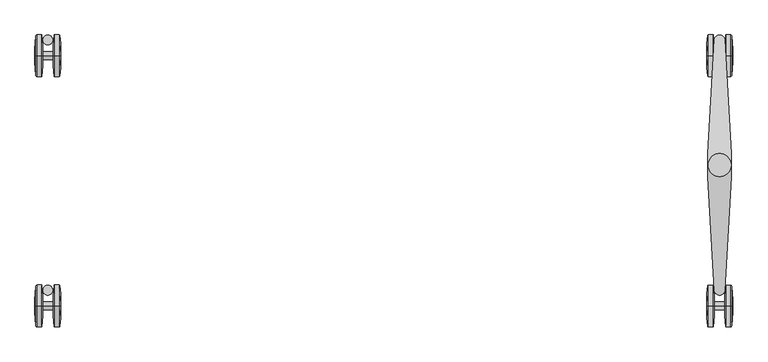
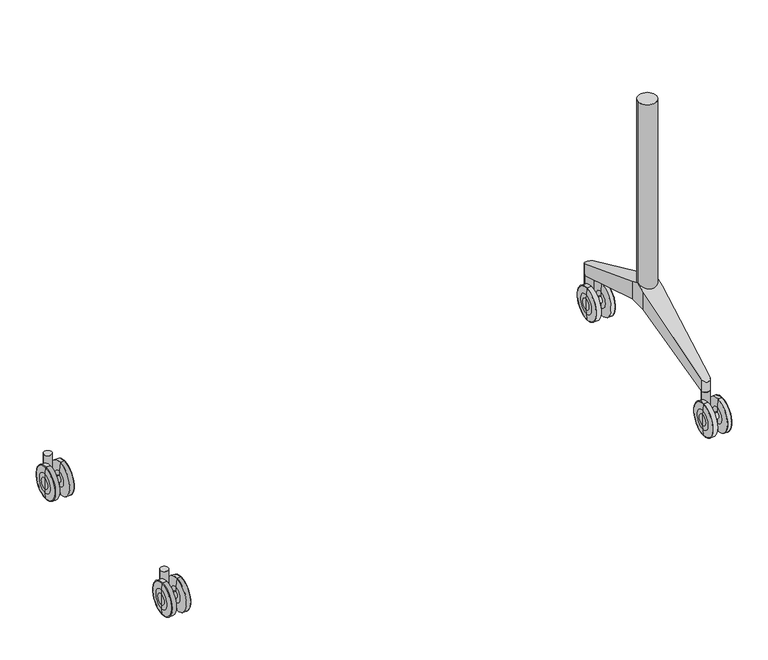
"""IFC4 building model written with IfcOpenShell, lengths in millimetres: furniture geometry."""

from ifc_helpers import new_model, si_unit, point, frame, frame_2d, origin, place, context, project, spatial, polyline, circle_curve, ellipse_curve, trimmed, segment, composite_curve, outline, extrude, source, transform, mapped, element, save
from ifc_brep_helpers import plane_surface, cylinder_surface, revolved_surface, advanced_brep


def furniture_fc034d58(model_context):
    return source(origin(), model_context, "Body", "SolidModel", [
        advanced_brep(
        [(618.3656519, 335.7555331, 26.9613134), (618.3656519, 335.7555331, 40.0000164), (618.3656519, 335.7555331, 53.0387194), (620.497176, 335.7555331, 0.8972162), (618.9247587, 335.7555331, 16.1123581), (618.9247587, 335.7555331, 63.8876748), (620.497176, 335.7555331, 79.1028166), (631.4565603, 335.7555331, 1.43e-05), (621.4918783, 335.7555331, 1.43e-05), (621.4918783, 335.7555331, 80.0000185), (631.4565603, 335.7555331, 80.0000185), (633.3656811, 335.7555331, 20.9999281), (633.3656811, 335.7555331, 59.0001048), (633.3656811, 335.7555331, 32.3463502), (633.3656811, 335.7555331, 47.6536826), (653.2657019, 335.7555331, 32.3463502), (653.2657019, 335.7555331, 47.6536826), (653.2657019, 335.7555331, 20.9999281), (653.2657019, 335.7555331, 59.0001048), (655.1748226, 335.7555331, 1.43e-05), (655.1748226, 335.7555331, 80.0000185), (664.2375243, 335.7555331, 1.43e-05), (664.2375243, 335.7555331, 80.0000185), (667.706818, 335.7555331, 16.1142331), (666.2269288, 335.7555331, 1.7944182), (666.2269288, 335.7555331, 78.2056147), (667.706818, 335.7555331, 63.8857997), (668.265731, 335.7555331, 40.0000164), (668.265731, 335.7555331, 26.9594284), (668.265731, 335.7555331, 53.0406045)],
        [
            (0, 1),
            (1, 2),
            (2, 0, circle_curve(frame((618.3656519, 335.7555331, 40.0000164), z_axis=(-1.0, 0.0, 0.0), x_axis=(0.0, 0.0, 1.0)), 13.038703)),
            (0, 2, circle_curve(frame((618.3656519, 335.7555331, 40.0000164), z_axis=(-1.0, 0.0, 0.0), x_axis=(0.0, 0.0, 1.0)), 13.038703)),
            (3, 4),
            (4, 5, circle_curve(frame((618.9247587, 335.7555331, 40.0000164), z_axis=(1.0, 0.0, 0.0), x_axis=(0.0, 0.0, 1.0)), 23.8876584)),
            (5, 6),
            (6, 3, circle_curve(frame((620.497176, 335.7555331, 40.0000164), z_axis=(-1.0, 0.0, 0.0), x_axis=(0.0, 0.0, 1.0)), 39.1028002)),
            (5, 4, circle_curve(frame((618.9247587, 335.7555331, 40.0000164), z_axis=(1.0, 0.0, 0.0), x_axis=(0.0, 0.0, 1.0)), 23.8876584)),
            (3, 6, circle_curve(frame((620.497176, 335.7555331, 40.0000164), z_axis=(-1.0, 0.0, 0.0), x_axis=(0.0, 0.0, 1.0)), 39.1028002)),
            (7, 8),
            (8, 9, circle_curve(frame((621.4918783, 335.7555331, 40.0000164), z_axis=(1.0, 0.0, 0.0), x_axis=(0.0, 0.0, 1.0)), 40.0000021)),
            (9, 10),
            (10, 7, circle_curve(frame((631.4565603, 335.7555331, 40.0000164), z_axis=(-1.0, 0.0, 0.0), x_axis=(0.0, 0.0, 1.0)), 40.0000021)),
            (9, 8, circle_curve(frame((621.4918783, 335.7555331, 40.0000164), z_axis=(1.0, 0.0, 0.0), x_axis=(0.0, 0.0, 1.0)), 40.0000021)),
            (7, 10, circle_curve(frame((631.4565603, 335.7555331, 40.0000164), z_axis=(-1.0, 0.0, 0.0), x_axis=(0.0, 0.0, 1.0)), 40.0000021)),
            (11, 7),
            (10, 12),
            (12, 11, circle_curve(frame((633.3656811, 335.7555331, 40.0000164), z_axis=(-1.0, 0.0, 0.0), x_axis=(0.0, 0.0, 1.0)), 19.0000883)),
            (11, 12, circle_curve(frame((633.3656811, 335.7555331, 40.0000164), z_axis=(-1.0, 0.0, 0.0), x_axis=(0.0, 0.0, 1.0)), 19.0000883)),
            (13, 11),
            (12, 14),
            (14, 13, circle_curve(frame((633.3656811, 335.7555331, 40.0000164), z_axis=(-1.0, 0.0, 0.0), x_axis=(0.0, 0.0, 1.0)), 7.6536662)),
            (13, 14, circle_curve(frame((633.3656811, 335.7555331, 40.0000164), z_axis=(-1.0, 0.0, 0.0), x_axis=(0.0, 0.0, 1.0)), 7.6536662)),
            (15, 13),
            (14, 16),
            (16, 15, circle_curve(frame((653.2657019, 335.7555331, 40.0000164), z_axis=(-1.0, 0.0, 0.0), x_axis=(0.0, 0.0, 1.0)), 7.6536662)),
            (15, 16, circle_curve(frame((653.2657019, 335.7555331, 40.0000164), z_axis=(-1.0, 0.0, 0.0), x_axis=(0.0, 0.0, 1.0)), 7.6536662)),
            (17, 15),
            (16, 18),
            (18, 17, circle_curve(frame((653.2657019, 335.7555331, 40.0000164), z_axis=(-1.0, 0.0, 0.0), x_axis=(0.0, 0.0, 1.0)), 19.0000883)),
            (17, 18, circle_curve(frame((653.2657019, 335.7555331, 40.0000164), z_axis=(-1.0, 0.0, 0.0), x_axis=(0.0, 0.0, 1.0)), 19.0000883)),
            (19, 17),
            (18, 20),
            (20, 19, circle_curve(frame((655.1748226, 335.7555331, 40.0000164), z_axis=(-1.0, 0.0, 0.0), x_axis=(0.0, 0.0, 1.0)), 40.0000021)),
            (19, 20, circle_curve(frame((655.1748226, 335.7555331, 40.0000164), z_axis=(-1.0, 0.0, 0.0), x_axis=(0.0, 0.0, 1.0)), 40.0000021)),
            (21, 19),
            (20, 22),
            (22, 21, circle_curve(frame((664.2375243, 335.7555331, 40.0000164), z_axis=(-1.0, 0.0, 0.0), x_axis=(0.0, 0.0, 1.0)), 40.0000021)),
            (21, 22, circle_curve(frame((664.2375243, 335.7555331, 40.0000164), z_axis=(-1.0, 0.0, 0.0), x_axis=(0.0, 0.0, 1.0)), 40.0000021)),
            (23, 24),
            (24, 25, circle_curve(frame((666.2269288, 335.7555331, 40.0000164), z_axis=(1.0, 0.0, 0.0), x_axis=(0.0, 0.0, 1.0)), 38.2055982)),
            (25, 26),
            (26, 23, circle_curve(frame((667.706818, 335.7555331, 40.0000164), z_axis=(-1.0, 0.0, 0.0), x_axis=(0.0, 0.0, 1.0)), 23.8857833)),
            (25, 24, circle_curve(frame((666.2269288, 335.7555331, 40.0000164), z_axis=(1.0, 0.0, 0.0), x_axis=(0.0, 0.0, 1.0)), 38.2055982)),
            (23, 26, circle_curve(frame((667.706818, 335.7555331, 40.0000164), z_axis=(-1.0, 0.0, 0.0), x_axis=(0.0, 0.0, 1.0)), 23.8857833)),
            (27, 28),
            (28, 29, circle_curve(frame((668.265731, 335.7555331, 40.0000164), z_axis=(1.0, 0.0, 0.0), x_axis=(0.0, 0.0, 1.0)), 13.0405881)),
            (29, 27),
            (29, 28, circle_curve(frame((668.265731, 335.7555331, 40.0000164), z_axis=(1.0, 0.0, 0.0), x_axis=(0.0, 0.0, 1.0)), 13.0405881)),
            (4, 0, circle_curve(frame((723.9022296, 335.7555331, 26.9613134), z_axis=(0.0, 1.0000000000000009, 0.0), x_axis=(-1.0000000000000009, 0.0, 0.0)), 105.5365777)),
            (2, 5, circle_curve(frame((723.9022296, 335.7555331, 53.0387194), z_axis=(0.0, 1.0000000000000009, 0.0), x_axis=(-1.0000000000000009, 0.0, 0.0)), 105.5365777)),
            (8, 3, circle_curve(frame((621.4918783, 335.7555331, 1.0000143), z_axis=(0.0, 1.0000000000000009, 0.0), x_axis=(-1.0000000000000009, 0.0, 0.0)), 1.0)),
            (6, 9, circle_curve(frame((621.4918783, 335.7555331, 79.0000185), z_axis=(0.0, 1.0000000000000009, 0.0), x_axis=(-1.0000000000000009, 0.0, 0.0)), 1.0)),
            (24, 21, circle_curve(frame((664.2375243, 335.7555331, 2.0000143), z_axis=(0.0, 1.0000000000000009, 0.0), x_axis=(-1.0000000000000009, 0.0, 0.0)), 2.0)),
            (22, 25, circle_curve(frame((664.2375243, 335.7555331, 78.0000185), z_axis=(0.0, 1.0000000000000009, 0.0), x_axis=(-1.0000000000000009, 0.0, 0.0)), 2.0)),
            (28, 23, circle_curve(frame((562.765731, 335.7555331, 26.9594284), z_axis=(0.0, 1.0000000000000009, 0.0), x_axis=(-1.0000000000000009, 0.0, 0.0)), 105.5)),
            (26, 29, circle_curve(frame((562.765731, 335.7555331, 53.0406045), z_axis=(0.0, 1.0000000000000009, 0.0), x_axis=(-1.0000000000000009, 0.0, 0.0)), 105.5)),
        ],
        [
            plane_surface(frame((618.3656519, 335.7555331, 40.0000164), z_axis=(-1.0, 0.0, 0.0), x_axis=(0.0, 0.0, 1.0))),
            revolved_surface(polyline([(618.9247587, 335.7555331, 63.8876748), (620.497176, 335.7555331, 79.1028166)]), (684.0657036, 335.7555331, 40.0000164), (1.0000000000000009, 0.0, 0.0)),
            cylinder_surface(frame((684.0657036, 335.7555331, 40.0000164), z_axis=(1.0000000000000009, 0.0, 0.0), x_axis=(0.0, 0.0, 1.0)), 40.0000021),
            revolved_surface(polyline([(631.4565603, 335.7555331, 80.0000185), (633.3656811, 335.7555331, 59.0001048)]), (684.0657036, 335.7555331, 40.0000164), (1.0000000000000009, 0.0, 0.0)),
            plane_surface(frame((633.3656811, 335.7555331, 40.0000164), z_axis=(1.0, 0.0, 0.0), x_axis=(0.0, 0.0, 1.0))),
            cylinder_surface(frame((684.0657036, 335.7555331, 40.0000164), z_axis=(1.0000000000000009, 0.0, 0.0), x_axis=(0.0, 0.0, 1.0)), 7.6536662),
            plane_surface(frame((653.2657019, 335.7555331, 40.0000164), z_axis=(-1.0, 0.0, 0.0), x_axis=(0.0, 0.0, 1.0))),
            revolved_surface(polyline([(653.2657019, 335.7555331, 59.0001048), (655.1748226, 335.7555331, 80.0000185)]), (684.0657036, 335.7555331, 40.0000164), (1.0000000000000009, 0.0, 0.0)),
            revolved_surface(polyline([(666.2269288, 335.7555331, 78.2056147), (667.706818, 335.7555331, 63.8857997)]), (684.0657036, 335.7555331, 40.0000164), (1.0000000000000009, 0.0, 0.0)),
            plane_surface(frame((668.265731, 335.7555331, 40.0000164), z_axis=(1.0, 0.0, 0.0), x_axis=(0.0, 0.0, 1.0))),
            revolved_surface(trimmed(ellipse_curve(frame((723.9022296, 335.7555331, 53.0387194), z_axis=(0.0, 1.0000000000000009, 0.0), x_axis=(-1.0000000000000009, 0.0, 0.0)), 105.5365777, 105.5365777), [point((618.3656519, 335.7555331, 53.0387194))], [point((618.9247587, 335.7555331, 63.8876748))], True, "CARTESIAN"), (684.0657036, 335.7555331, 40.0000164), (1.0000000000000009, 0.0, 0.0)),
            revolved_surface(trimmed(ellipse_curve(frame((621.4918783, 335.7555331, 79.0000185), z_axis=(0.0, 1.0000000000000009, 0.0), x_axis=(-1.0000000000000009, 0.0, 0.0)), 1.0, 1.0), [point((620.497176, 335.7555331, 79.1028166))], [point((621.4918783, 335.7555331, 80.0000185))], True, "CARTESIAN"), (684.0657036, 335.7555331, 40.0000164), (1.0000000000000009, 0.0, 0.0)),
            revolved_surface(trimmed(ellipse_curve(frame((664.2375243, 335.7555331, 78.0000185), z_axis=(0.0, 1.0000000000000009, 0.0), x_axis=(-1.0000000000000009, 0.0, 0.0)), 2.0, 2.0), [point((664.2375243, 335.7555331, 80.0000185))], [point((666.2269288, 335.7555331, 78.2056147))], True, "CARTESIAN"), (684.0657036, 335.7555331, 40.0000164), (1.0000000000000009, 0.0, 0.0)),
            revolved_surface(trimmed(ellipse_curve(frame((562.765731, 335.7555331, 53.0406045), z_axis=(0.0, 1.0000000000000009, 0.0), x_axis=(-1.0000000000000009, 0.0, 0.0)), 105.5, 105.5), [point((667.706818, 335.7555331, 63.8857997))], [point((668.265731, 335.7555331, 53.0406045))], True, "CARTESIAN"), (684.0657036, 335.7555331, 40.0000164), (1.0000000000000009, 0.0, 0.0)),
        ],
        [
            (0, [[1, 2, 3]]),
            (0, [[-2, -1, 4]]),
            (1, [[5, 6, 7, 8]]),
            (1, [[-7, 9, -5, 10]]),
            (2, [[11, 12, 13, 14]]),
            (2, [[-13, 15, -11, 16]]),
            (3, [[17, -14, 18, 19]]),
            (3, [[-18, -16, -17, 20]]),
            (4, [[21, -19, 22, 23]]),
            (4, [[-22, -20, -21, 24]]),
            (5, [[25, -23, 26, 27]]),
            (5, [[-26, -24, -25, 28]]),
            (6, [[29, -27, 30, 31]]),
            (6, [[-30, -28, -29, 32]]),
            (7, [[33, -31, 34, 35]]),
            (7, [[-34, -32, -33, 36]]),
            (2, [[37, -35, 38, 39]]),
            (2, [[-38, -36, -37, 40]]),
            (8, [[41, 42, 43, 44]]),
            (8, [[-43, 45, -41, 46]]),
            (9, [[47, 48, 49]]),
            (9, [[-49, 50, -47]]),
            (10, [[51, -3, 52, -6]]),
            (10, [[-52, -4, -51, -9]]),
            (11, [[53, -8, 54, -12]]),
            (11, [[-54, -10, -53, -15]]),
            (12, [[55, -39, 56, -42]]),
            (12, [[-56, -40, -55, -45]]),
            (13, [[57, -44, 58, -48]]),
            (13, [[-58, -46, -57, -50]]),
        ],
    ),
        extrude(outline(composite_curve([segment(trimmed(circle_curve(frame_2d((643.4514741, 365.8520513)), 9.5), [point((652.9514741, 365.8520513))], [point((633.9514741, 365.8520513))], False, "CARTESIAN"), True, "CONTINUOUS"), segment(trimmed(circle_curve(frame_2d((643.4514741, 365.8520513)), 9.5), [point((633.9514741, 365.8520513))], [point((652.9514741, 365.8520513))], False, "CARTESIAN"), True, "CONTINUOUS")], self_intersect=False)), frame((0.0, 0.0, 50.0000143), z_axis=(0.0, 0.0, 1.0), x_axis=(1.0, 0.0, 0.0)), (0.0, 0.0, 1.0), 39.0),
        advanced_brep(
        [(618.3656519, -144.048844, 26.9613134), (618.3656519, -144.048844, 40.0000164), (618.3656519, -144.048844, 53.0387194), (620.497176, -144.048844, 0.8972162), (618.9247587, -144.048844, 16.1123581), (618.9247587, -144.048844, 63.8876748), (620.497176, -144.048844, 79.1028166), (631.4565603, -144.048844, 1.43e-05), (621.4918783, -144.048844, 1.43e-05), (621.4918783, -144.048844, 80.0000185), (631.4565603, -144.048844, 80.0000185), (633.3656811, -144.048844, 20.9999281), (633.3656811, -144.048844, 59.0001048), (633.3656811, -144.048844, 32.3463502), (633.3656811, -144.048844, 47.6536826), (653.2657019, -144.048844, 32.3463502), (653.2657019, -144.048844, 47.6536826), (653.2657019, -144.048844, 20.9999281), (653.2657019, -144.048844, 59.0001048), (655.1748226, -144.048844, 1.43e-05), (655.1748226, -144.048844, 80.0000185), (664.2375243, -144.048844, 1.43e-05), (664.2375243, -144.048844, 80.0000185), (667.706818, -144.048844, 16.1142331), (666.2269288, -144.048844, 1.7944182), (666.2269288, -144.048844, 78.2056147), (667.706818, -144.048844, 63.8857997), (668.265731, -144.048844, 40.0000164), (668.265731, -144.048844, 26.9594284), (668.265731, -144.048844, 53.0406045)],
        [
            (0, 1),
            (1, 2),
            (2, 0, circle_curve(frame((618.3656519, -144.048844, 40.0000164), z_axis=(-1.0, 0.0, 0.0), x_axis=(0.0, 0.0, 1.0)), 13.038703)),
            (0, 2, circle_curve(frame((618.3656519, -144.048844, 40.0000164), z_axis=(-1.0, 0.0, 0.0), x_axis=(0.0, 0.0, 1.0)), 13.038703)),
            (3, 4),
            (4, 5, circle_curve(frame((618.9247587, -144.048844, 40.0000164), z_axis=(1.0, 0.0, 0.0), x_axis=(0.0, 0.0, 1.0)), 23.8876584)),
            (5, 6),
            (6, 3, circle_curve(frame((620.497176, -144.048844, 40.0000164), z_axis=(-1.0, 0.0, 0.0), x_axis=(0.0, 0.0, 1.0)), 39.1028002)),
            (5, 4, circle_curve(frame((618.9247587, -144.048844, 40.0000164), z_axis=(1.0, 0.0, 0.0), x_axis=(0.0, 0.0, 1.0)), 23.8876584)),
            (3, 6, circle_curve(frame((620.497176, -144.048844, 40.0000164), z_axis=(-1.0, 0.0, 0.0), x_axis=(0.0, 0.0, 1.0)), 39.1028002)),
            (7, 8),
            (8, 9, circle_curve(frame((621.4918783, -144.048844, 40.0000164), z_axis=(1.0, 0.0, 0.0), x_axis=(0.0, 0.0, 1.0)), 40.0000021)),
            (9, 10),
            (10, 7, circle_curve(frame((631.4565603, -144.048844, 40.0000164), z_axis=(-1.0, 0.0, 0.0), x_axis=(0.0, 0.0, 1.0)), 40.0000021)),
            (9, 8, circle_curve(frame((621.4918783, -144.048844, 40.0000164), z_axis=(1.0, 0.0, 0.0), x_axis=(0.0, 0.0, 1.0)), 40.0000021)),
            (7, 10, circle_curve(frame((631.4565603, -144.048844, 40.0000164), z_axis=(-1.0, 0.0, 0.0), x_axis=(0.0, 0.0, 1.0)), 40.0000021)),
            (11, 7),
            (10, 12),
            (12, 11, circle_curve(frame((633.3656811, -144.048844, 40.0000164), z_axis=(-1.0, 0.0, 0.0), x_axis=(0.0, 0.0, 1.0)), 19.0000883)),
            (11, 12, circle_curve(frame((633.3656811, -144.048844, 40.0000164), z_axis=(-1.0, 0.0, 0.0), x_axis=(0.0, 0.0, 1.0)), 19.0000883)),
            (13, 11),
            (12, 14),
            (14, 13, circle_curve(frame((633.3656811, -144.048844, 40.0000164), z_axis=(-1.0, 0.0, 0.0), x_axis=(0.0, 0.0, 1.0)), 7.6536662)),
            (13, 14, circle_curve(frame((633.3656811, -144.048844, 40.0000164), z_axis=(-1.0, 0.0, 0.0), x_axis=(0.0, 0.0, 1.0)), 7.6536662)),
            (15, 13),
            (14, 16),
            (16, 15, circle_curve(frame((653.2657019, -144.048844, 40.0000164), z_axis=(-1.0, 0.0, 0.0), x_axis=(0.0, 0.0, 1.0)), 7.6536662)),
            (15, 16, circle_curve(frame((653.2657019, -144.048844, 40.0000164), z_axis=(-1.0, 0.0, 0.0), x_axis=(0.0, 0.0, 1.0)), 7.6536662)),
            (17, 15),
            (16, 18),
            (18, 17, circle_curve(frame((653.2657019, -144.048844, 40.0000164), z_axis=(-1.0, 0.0, 0.0), x_axis=(0.0, 0.0, 1.0)), 19.0000883)),
            (17, 18, circle_curve(frame((653.2657019, -144.048844, 40.0000164), z_axis=(-1.0, 0.0, 0.0), x_axis=(0.0, 0.0, 1.0)), 19.0000883)),
            (19, 17),
            (18, 20),
            (20, 19, circle_curve(frame((655.1748226, -144.048844, 40.0000164), z_axis=(-1.0, 0.0, 0.0), x_axis=(0.0, 0.0, 1.0)), 40.0000021)),
            (19, 20, circle_curve(frame((655.1748226, -144.048844, 40.0000164), z_axis=(-1.0, 0.0, 0.0), x_axis=(0.0, 0.0, 1.0)), 40.0000021)),
            (21, 19),
            (20, 22),
            (22, 21, circle_curve(frame((664.2375243, -144.048844, 40.0000164), z_axis=(-1.0, 0.0, 0.0), x_axis=(0.0, 0.0, 1.0)), 40.0000021)),
            (21, 22, circle_curve(frame((664.2375243, -144.048844, 40.0000164), z_axis=(-1.0, 0.0, 0.0), x_axis=(0.0, 0.0, 1.0)), 40.0000021)),
            (23, 24),
            (24, 25, circle_curve(frame((666.2269288, -144.048844, 40.0000164), z_axis=(1.0, 0.0, 0.0), x_axis=(0.0, 0.0, 1.0)), 38.2055982)),
            (25, 26),
            (26, 23, circle_curve(frame((667.706818, -144.048844, 40.0000164), z_axis=(-1.0, 0.0, 0.0), x_axis=(0.0, 0.0, 1.0)), 23.8857833)),
            (25, 24, circle_curve(frame((666.2269288, -144.048844, 40.0000164), z_axis=(1.0, 0.0, 0.0), x_axis=(0.0, 0.0, 1.0)), 38.2055982)),
            (23, 26, circle_curve(frame((667.706818, -144.048844, 40.0000164), z_axis=(-1.0, 0.0, 0.0), x_axis=(0.0, 0.0, 1.0)), 23.8857833)),
            (27, 28),
            (28, 29, circle_curve(frame((668.265731, -144.048844, 40.0000164), z_axis=(1.0, 0.0, 0.0), x_axis=(0.0, 0.0, 1.0)), 13.0405881)),
            (29, 27),
            (29, 28, circle_curve(frame((668.265731, -144.048844, 40.0000164), z_axis=(1.0, 0.0, 0.0), x_axis=(0.0, 0.0, 1.0)), 13.0405881)),
            (4, 0, circle_curve(frame((723.9022296, -144.048844, 26.9613134), z_axis=(0.0, 1.0, 0.0), x_axis=(-1.0, 0.0, 0.0)), 105.5365777)),
            (2, 5, circle_curve(frame((723.9022296, -144.048844, 53.0387194), z_axis=(0.0, 1.0, 0.0), x_axis=(-1.0, 0.0, 0.0)), 105.5365777)),
            (8, 3, circle_curve(frame((621.4918783, -144.048844, 1.0000143), z_axis=(0.0, 1.0, 0.0), x_axis=(-1.0, 0.0, 0.0)), 1.0)),
            (6, 9, circle_curve(frame((621.4918783, -144.048844, 79.0000185), z_axis=(0.0, 1.0, 0.0), x_axis=(-1.0, 0.0, 0.0)), 1.0)),
            (24, 21, circle_curve(frame((664.2375243, -144.048844, 2.0000143), z_axis=(0.0, 1.0, 0.0), x_axis=(-1.0, 0.0, 0.0)), 2.0)),
            (22, 25, circle_curve(frame((664.2375243, -144.048844, 78.0000185), z_axis=(0.0, 1.0, 0.0), x_axis=(-1.0, 0.0, 0.0)), 2.0)),
            (28, 23, circle_curve(frame((562.765731, -144.048844, 26.9594284), z_axis=(0.0, 1.0, 0.0), x_axis=(-1.0, 0.0, 0.0)), 105.5)),
            (26, 29, circle_curve(frame((562.765731, -144.048844, 53.0406045), z_axis=(0.0, 1.0, 0.0), x_axis=(-1.0, 0.0, 0.0)), 105.5)),
        ],
        [
            plane_surface(frame((618.3656519, -144.048844, 40.0000164), z_axis=(-1.0, 0.0, 0.0), x_axis=(0.0, 0.0, 1.0))),
            revolved_surface(polyline([(618.9247587, -144.048844, 63.8876748), (620.497176, -144.048844, 79.1028166)]), (684.0657036, -144.048844, 40.0000164), (1.0, 0.0, 0.0)),
            cylinder_surface(frame((684.0657036, -144.048844, 40.0000164), z_axis=(1.0, 0.0, 0.0), x_axis=(0.0, 0.0, 1.0)), 40.0000021),
            revolved_surface(polyline([(631.4565603, -144.048844, 80.0000185), (633.3656811, -144.048844, 59.0001048)]), (684.0657036, -144.048844, 40.0000164), (1.0, 0.0, 0.0)),
            plane_surface(frame((633.3656811, -144.048844, 40.0000164), z_axis=(1.0, 0.0, 0.0), x_axis=(0.0, 0.0, 1.0))),
            cylinder_surface(frame((684.0657036, -144.048844, 40.0000164), z_axis=(1.0, 0.0, 0.0), x_axis=(0.0, 0.0, 1.0)), 7.6536662),
            plane_surface(frame((653.2657019, -144.048844, 40.0000164), z_axis=(-1.0, 0.0, 0.0), x_axis=(0.0, 0.0, 1.0))),
            revolved_surface(polyline([(653.2657019, -144.048844, 59.0001048), (655.1748226, -144.048844, 80.0000185)]), (684.0657036, -144.048844, 40.0000164), (1.0, 0.0, 0.0)),
            revolved_surface(polyline([(666.2269288, -144.048844, 78.2056147), (667.706818, -144.048844, 63.8857997)]), (684.0657036, -144.048844, 40.0000164), (1.0, 0.0, 0.0)),
            plane_surface(frame((668.265731, -144.048844, 40.0000164), z_axis=(1.0, 0.0, 0.0), x_axis=(0.0, 0.0, 1.0))),
            revolved_surface(trimmed(ellipse_curve(frame((723.9022296, -144.048844, 53.0387194), z_axis=(0.0, 1.0, 0.0), x_axis=(-1.0, 0.0, 0.0)), 105.5365777, 105.5365777), [point((618.3656519, -144.048844, 53.0387194))], [point((618.9247587, -144.048844, 63.8876748))], True, "CARTESIAN"), (684.0657036, -144.048844, 40.0000164), (1.0, 0.0, 0.0)),
            revolved_surface(trimmed(ellipse_curve(frame((621.4918783, -144.048844, 79.0000185), z_axis=(0.0, 1.0, 0.0), x_axis=(-1.0, 0.0, 0.0)), 1.0, 1.0), [point((620.497176, -144.048844, 79.1028166))], [point((621.4918783, -144.048844, 80.0000185))], True, "CARTESIAN"), (684.0657036, -144.048844, 40.0000164), (1.0, 0.0, 0.0)),
            revolved_surface(trimmed(ellipse_curve(frame((664.2375243, -144.048844, 78.0000185), z_axis=(0.0, 1.0, 0.0), x_axis=(-1.0, 0.0, 0.0)), 2.0, 2.0), [point((664.2375243, -144.048844, 80.0000185))], [point((666.2269288, -144.048844, 78.2056147))], True, "CARTESIAN"), (684.0657036, -144.048844, 40.0000164), (1.0, 0.0, 0.0)),
            revolved_surface(trimmed(ellipse_curve(frame((562.765731, -144.048844, 53.0406045), z_axis=(0.0, 1.0, 0.0), x_axis=(-1.0, 0.0, 0.0)), 105.5, 105.5), [point((667.706818, -144.048844, 63.8857997))], [point((668.265731, -144.048844, 53.0406045))], True, "CARTESIAN"), (684.0657036, -144.048844, 40.0000164), (1.0, 0.0, 0.0)),
        ],
        [
            (0, [[1, 2, 3]]),
            (0, [[-2, -1, 4]]),
            (1, [[5, 6, 7, 8]]),
            (1, [[-7, 9, -5, 10]]),
            (2, [[11, 12, 13, 14]]),
            (2, [[-13, 15, -11, 16]]),
            (3, [[17, -14, 18, 19]]),
            (3, [[-18, -16, -17, 20]]),
            (4, [[21, -19, 22, 23]]),
            (4, [[-22, -20, -21, 24]]),
            (5, [[25, -23, 26, 27]]),
            (5, [[-26, -24, -25, 28]]),
            (6, [[29, -27, 30, 31]]),
            (6, [[-30, -28, -29, 32]]),
            (7, [[33, -31, 34, 35]]),
            (7, [[-34, -32, -33, 36]]),
            (2, [[37, -35, 38, 39]]),
            (2, [[-38, -36, -37, 40]]),
            (8, [[41, 42, 43, 44]]),
            (8, [[-43, 45, -41, 46]]),
            (9, [[47, 48, 49]]),
            (9, [[-49, 50, -47]]),
            (10, [[51, -3, 52, -6]]),
            (10, [[-52, -4, -51, -9]]),
            (11, [[53, -8, 54, -12]]),
            (11, [[-54, -10, -53, -15]]),
            (12, [[55, -39, 56, -42]]),
            (12, [[-56, -40, -55, -45]]),
            (13, [[57, -44, 58, -48]]),
            (13, [[-58, -46, -57, -50]]),
        ],
    ),
        extrude(outline(composite_curve([segment(trimmed(circle_curve(frame_2d((643.4514741, -113.9523258)), 9.5), [point((652.9514741, -113.9523258))], [point((633.9514741, -113.9523258))], False, "CARTESIAN"), True, "CONTINUOUS"), segment(trimmed(circle_curve(frame_2d((643.4514741, -113.9523258)), 9.5), [point((633.9514741, -113.9523258))], [point((652.9514741, -113.9523258))], False, "CARTESIAN"), True, "CONTINUOUS")], self_intersect=False)), frame((0.0, 0.0, 50.0000143), z_axis=(0.0, 0.0, 1.0), x_axis=(1.0, 0.0, 0.0)), (0.0, 0.0, 1.0), 39.0),
        advanced_brep(
        [(633.227182, -113.0675149, 88.8098467), (620.7835638, 103.4520638, 165.9003439), (665.7478455, 103.4511538, 165.9000199), (653.3042073, -113.0675149, 88.8098467), (633.2821683, -114.0242798, 118.1504308), (653.2492204, -114.0242831, 118.1504294), (665.7478455, 103.4511538, 210.360006), (665.7657383, 125.9511569, 219.9000064), (620.7657234, 125.9511569, 219.9000064), (620.7657234, 103.4511538, 210.360006), (653.2492204, -114.0242831, 88.8098467), (633.2821683, -114.0242798, 88.8098467), (633.227182, 364.9698238, 88.8098467), (633.2821683, 365.9265887, 88.8098467), (653.2492204, 365.926592, 88.8098467), (653.3042073, 364.9698238, 88.8098467), (620.7657234, 148.4511551, 210.360006), (665.7657383, 148.4511551, 210.360006), (653.2492204, 365.926592, 118.1504294), (633.2821683, 365.9265887, 118.1504308), (665.7478455, 148.4511551, 165.9000199), (620.7835638, 148.4511551, 165.9000199), (620.7657234, 125.9511544, 165.9000199), (665.7657383, 125.9511544, 165.9000199)],
        [
            (0, 1),
            (1, 2),
            (2, 3),
            (3, 0),
            (4, 5, ellipse_curve(frame((643.2656945, -113.4505156, 118.3937069), z_axis=(0.0, -0.39036065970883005, 0.9206620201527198), x_axis=(0.0, -0.9206620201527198, -0.3903606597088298)), 10.8617492, 10.0)),
            (5, 6),
            (6, 7),
            (7, 8),
            (8, 9),
            (9, 4),
            (3, 10),
            (10, 11, circle_curve(frame((643.2656945, -113.4505156, 88.8098467), z_axis=(0.0, 0.0, -1.0), x_axis=(-1.0, 0.0, 0.0)), 10.0)),
            (11, 0),
            (12, 13),
            (13, 14, circle_curve(frame((643.2656945, 365.3528245, 88.8098467), z_axis=(0.0, 0.0, -1.0), x_axis=(-1.0, 0.0, 0.0)), 10.0)),
            (14, 15),
            (15, 12),
            (16, 8),
            (7, 17),
            (17, 18),
            (18, 19, ellipse_curve(frame((643.2656945, 365.3528245, 118.3937069), z_axis=(0.0, 0.39036065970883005, 0.9206620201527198), x_axis=(0.0, 0.9206620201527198, -0.3903606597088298)), 10.8617492, 10.0)),
            (19, 16),
            (15, 20),
            (20, 21),
            (21, 12),
            (21, 16),
            (19, 13),
            (17, 20),
            (14, 18),
            (9, 1),
            (11, 4),
            (10, 5),
            (2, 6),
            (21, 22),
            (22, 1),
            (2, 23),
            (23, 20),
            (22, 23),
        ],
        [
            plane_surface(frame((620.7657234, -113.0675149, 88.8098467), z_axis=(0.0, 0.33541814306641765, -0.9420693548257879), x_axis=(1.0, 0.0, 0.0))),
            plane_surface(frame((620.7657234, 103.4511538, 210.360006), z_axis=(0.0, -0.39036065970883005, 0.9206620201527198), x_axis=(1.0, 0.0, 0.0))),
            plane_surface(frame((620.7657234, -124.5346363, 88.8098467), z_axis=(0.0, 0.0, -1.0), x_axis=(1.0, 0.0, 0.0))),
            plane_surface(frame((620.7657234, 364.9698238, 88.8098467), z_axis=(0.0, 0.0, -1.0), x_axis=(1.0, 0.0, 0.0))),
            plane_surface(frame((620.7657234, 376.4369452, 113.6940401), z_axis=(0.0, 0.39036065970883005, 0.9206620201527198), x_axis=(1.0, 0.0, 0.0))),
            plane_surface(frame((620.7657234, 148.4511551, 165.9000199), z_axis=(0.0, -0.33541814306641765, -0.9420693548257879), x_axis=(1.0, 0.0, 0.0))),
            plane_surface(frame((633.2821683, 365.9265887, 234.8098558), z_axis=(-0.9983526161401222, 0.0573764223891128, 0.0), x_axis=(0.0, 0.0, -1.0))),
            plane_surface(frame((665.7478455, 148.4511551, 234.8098558), z_axis=(0.9983525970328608, 0.0573767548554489, 0.0), x_axis=(0.0, 0.0, -1.0))),
            cylinder_surface(frame((643.2656945, 365.3528245, 75.8098498), z_axis=(0.0, 0.0, -1.0), x_axis=(-1.0, 0.0, 0.0)), 10.0),
            plane_surface(frame((620.7836161, 103.4511538, 234.8098558), z_axis=(-0.9983526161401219, -0.05737642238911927, 0.0), x_axis=(0.0, 0.0, -1.0))),
            cylinder_surface(frame((643.2656945, -113.4505156, -14.1901527), z_axis=(0.0, 0.0, -1.0), x_axis=(-1.0, 0.0, 0.0)), 10.0),
            plane_surface(frame((653.2492204, -114.0242831, 234.8098558), z_axis=(0.9983525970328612, -0.05737675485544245, 0.0), x_axis=(0.0, 0.0, -1.0))),
            plane_surface(frame((620.7657234, 148.4511551, 210.360006), z_axis=(-1.0, 0.0, 0.0), x_axis=(0.0, -0.9206619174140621, 0.3903609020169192))),
            plane_surface(frame((665.7657383, 148.4511551, 210.360006), z_axis=(1.0, 0.0, 0.0), x_axis=(0.0, 0.9206619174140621, -0.3903609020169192))),
            plane_surface(frame((620.7657234, 103.4511538, 165.9000199), z_axis=(0.0, 0.0, -1.0), x_axis=(1.0, 0.0, 0.0))),
            plane_surface(frame((620.7657234, 125.9511544, 165.9000199), z_axis=(0.0, 0.0, -1.0), x_axis=(1.0, 0.0, 0.0))),
        ],
        [
            (0, [[1, 2, 3, 4]]),
            (1, [[5, 6, 7, 8, 9, 10]]),
            (2, [[11, 12, 13, -4]]),
            (3, [[14, 15, 16, 17]]),
            (4, [[18, -8, 19, 20, 21, 22]]),
            (5, [[23, 24, 25, -17]]),
            (6, [[-14, -25, 26, -22, 27]]),
            (7, [[-20, 28, -23, -16, 29]]),
            (8, [[-21, -29, -15, -27]]),
            (9, [[-10, 30, -1, -13, 31]]),
            (10, [[-12, 32, -5, -31]]),
            (11, [[-11, -3, 33, -6, -32]]),
            (12, [[-26, 34, 35, -30, -9, -18]]),
            (13, [[-28, -19, -7, -33, 36, 37]]),
            (14, [[38, -36, -2, -35]]),
            (15, [[-24, -37, -38, -34]]),
        ],
    ),
        extrude(outline(composite_curve([segment(trimmed(circle_curve(frame_2d((643.2657309, 125.9511544)), 22.0), [point((665.2657309, 125.9511544))], [point((621.2657309, 125.9511544))], False, "CARTESIAN"), True, "CONTINUOUS"), segment(trimmed(circle_curve(frame_2d((643.2657309, 125.9511544)), 22.0), [point((621.2657309, 125.9511544))], [point((665.2657309, 125.9511544))], False, "CARTESIAN"), True, "CONTINUOUS")], self_intersect=False)), frame((0.0, 0.0, 165.9000199), z_axis=(0.0, 0.0, 1.0), x_axis=(1.0, 0.0, 0.0)), (0.0, 0.0, 1.0), 509.0999944),
        advanced_brep(
        [(-618.3656519, 335.7555331, 26.9613134), (-618.3656519, 335.7555331, 53.0387194), (-618.3656519, 335.7555331, 40.0000164), (-620.497176, 335.7555331, 0.8972162), (-620.497176, 335.7555331, 79.1028166), (-618.9247587, 335.7555331, 63.8876748), (-618.9247587, 335.7555331, 16.1123581), (-631.4565603, 335.7555331, 1.43e-05), (-631.4565603, 335.7555331, 80.0000185), (-621.4918783, 335.7555331, 80.0000185), (-621.4918783, 335.7555331, 1.43e-05), (-633.3656811, 335.7555331, 20.9999281), (-633.3656811, 335.7555331, 59.0001048), (-633.3656811, 335.7555331, 32.3463502), (-633.3656811, 335.7555331, 47.6536826), (-653.2657019, 335.7555331, 32.3463502), (-653.2657019, 335.7555331, 47.6536826), (-653.2657019, 335.7555331, 20.9999281), (-653.2657019, 335.7555331, 59.0001048), (-655.1748226, 335.7555331, 1.43e-05), (-655.1748226, 335.7555331, 80.0000185), (-664.2375243, 335.7555331, 1.43e-05), (-664.2375243, 335.7555331, 80.0000185), (-667.706818, 335.7555331, 16.1142331), (-667.706818, 335.7555331, 63.8857997), (-666.2269288, 335.7555331, 78.2056147), (-666.2269288, 335.7555331, 1.7944182), (-668.265731, 335.7555331, 40.0000164), (-668.265731, 335.7555331, 53.0406045), (-668.265731, 335.7555331, 26.9594284)],
        [
            (0, 1, circle_curve(frame((-618.3656519, 335.7555331, 40.0000164), z_axis=(1.0, 0.0, 0.0), x_axis=(0.0, 0.0, 1.0)), 13.038703)),
            (1, 2),
            (2, 0),
            (1, 0, circle_curve(frame((-618.3656519, 335.7555331, 40.0000164), z_axis=(1.0, 0.0, 0.0), x_axis=(0.0, 0.0, 1.0)), 13.038703)),
            (3, 4, circle_curve(frame((-620.497176, 335.7555331, 40.0000164), z_axis=(1.0, 0.0, 0.0), x_axis=(0.0, 0.0, 1.0)), 39.1028002)),
            (4, 5),
            (5, 6, circle_curve(frame((-618.9247587, 335.7555331, 40.0000164), z_axis=(-1.0, 0.0, 0.0), x_axis=(0.0, 0.0, 1.0)), 23.8876584)),
            (6, 3),
            (4, 3, circle_curve(frame((-620.497176, 335.7555331, 40.0000164), z_axis=(1.0, 0.0, 0.0), x_axis=(0.0, 0.0, 1.0)), 39.1028002)),
            (6, 5, circle_curve(frame((-618.9247587, 335.7555331, 40.0000164), z_axis=(-1.0, 0.0, 0.0), x_axis=(0.0, 0.0, 1.0)), 23.8876584)),
            (7, 8, circle_curve(frame((-631.4565603, 335.7555331, 40.0000164), z_axis=(1.0, 0.0, 0.0), x_axis=(0.0, 0.0, 1.0)), 40.0000021)),
            (8, 9),
            (9, 10, circle_curve(frame((-621.4918783, 335.7555331, 40.0000164), z_axis=(-1.0, 0.0, 0.0), x_axis=(0.0, 0.0, 1.0)), 40.0000021)),
            (10, 7),
            (8, 7, circle_curve(frame((-631.4565603, 335.7555331, 40.0000164), z_axis=(1.0, 0.0, 0.0), x_axis=(0.0, 0.0, 1.0)), 40.0000021)),
            (10, 9, circle_curve(frame((-621.4918783, 335.7555331, 40.0000164), z_axis=(-1.0, 0.0, 0.0), x_axis=(0.0, 0.0, 1.0)), 40.0000021)),
            (11, 12, circle_curve(frame((-633.3656811, 335.7555331, 40.0000164), z_axis=(1.0, 0.0, 0.0), x_axis=(0.0, 0.0, 1.0)), 19.0000883)),
            (12, 8),
            (7, 11),
            (12, 11, circle_curve(frame((-633.3656811, 335.7555331, 40.0000164), z_axis=(1.0, 0.0, 0.0), x_axis=(0.0, 0.0, 1.0)), 19.0000883)),
            (13, 14, circle_curve(frame((-633.3656811, 335.7555331, 40.0000164), z_axis=(1.0, 0.0, 0.0), x_axis=(0.0, 0.0, 1.0)), 7.6536662)),
            (14, 12),
            (11, 13),
            (14, 13, circle_curve(frame((-633.3656811, 335.7555331, 40.0000164), z_axis=(1.0, 0.0, 0.0), x_axis=(0.0, 0.0, 1.0)), 7.6536662)),
            (15, 16, circle_curve(frame((-653.2657019, 335.7555331, 40.0000164), z_axis=(1.0, 0.0, 0.0), x_axis=(0.0, 0.0, 1.0)), 7.6536662)),
            (16, 14),
            (13, 15),
            (16, 15, circle_curve(frame((-653.2657019, 335.7555331, 40.0000164), z_axis=(1.0, 0.0, 0.0), x_axis=(0.0, 0.0, 1.0)), 7.6536662)),
            (17, 18, circle_curve(frame((-653.2657019, 335.7555331, 40.0000164), z_axis=(1.0, 0.0, 0.0), x_axis=(0.0, 0.0, 1.0)), 19.0000883)),
            (18, 16),
            (15, 17),
            (18, 17, circle_curve(frame((-653.2657019, 335.7555331, 40.0000164), z_axis=(1.0, 0.0, 0.0), x_axis=(0.0, 0.0, 1.0)), 19.0000883)),
            (19, 20, circle_curve(frame((-655.1748226, 335.7555331, 40.0000164), z_axis=(1.0, 0.0, 0.0), x_axis=(0.0, 0.0, 1.0)), 40.0000021)),
            (20, 18),
            (17, 19),
            (20, 19, circle_curve(frame((-655.1748226, 335.7555331, 40.0000164), z_axis=(1.0, 0.0, 0.0), x_axis=(0.0, 0.0, 1.0)), 40.0000021)),
            (21, 22, circle_curve(frame((-664.2375243, 335.7555331, 40.0000164), z_axis=(1.0, 0.0, 0.0), x_axis=(0.0, 0.0, 1.0)), 40.0000021)),
            (22, 20),
            (19, 21),
            (22, 21, circle_curve(frame((-664.2375243, 335.7555331, 40.0000164), z_axis=(1.0, 0.0, 0.0), x_axis=(0.0, 0.0, 1.0)), 40.0000021)),
            (23, 24, circle_curve(frame((-667.706818, 335.7555331, 40.0000164), z_axis=(1.0, 0.0, 0.0), x_axis=(0.0, 0.0, 1.0)), 23.8857833)),
            (24, 25),
            (25, 26, circle_curve(frame((-666.2269288, 335.7555331, 40.0000164), z_axis=(-1.0, 0.0, 0.0), x_axis=(0.0, 0.0, 1.0)), 38.2055982)),
            (26, 23),
            (24, 23, circle_curve(frame((-667.706818, 335.7555331, 40.0000164), z_axis=(1.0, 0.0, 0.0), x_axis=(0.0, 0.0, 1.0)), 23.8857833)),
            (26, 25, circle_curve(frame((-666.2269288, 335.7555331, 40.0000164), z_axis=(-1.0, 0.0, 0.0), x_axis=(0.0, 0.0, 1.0)), 38.2055982)),
            (27, 28),
            (28, 29, circle_curve(frame((-668.265731, 335.7555331, 40.0000164), z_axis=(-1.0, 0.0, 0.0), x_axis=(0.0, 0.0, 1.0)), 13.0405881)),
            (29, 27),
            (29, 28, circle_curve(frame((-668.265731, 335.7555331, 40.0000164), z_axis=(-1.0, 0.0, 0.0), x_axis=(0.0, 0.0, 1.0)), 13.0405881)),
            (5, 1, circle_curve(frame((-723.9022296, 335.7555331, 53.0387194), z_axis=(0.0, 1.0000000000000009, 0.0), x_axis=(1.0000000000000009, 0.0, 0.0)), 105.5365777)),
            (0, 6, circle_curve(frame((-723.9022296, 335.7555331, 26.9613134), z_axis=(0.0, 1.0000000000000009, 0.0), x_axis=(1.0000000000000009, 0.0, 0.0)), 105.5365777)),
            (9, 4, circle_curve(frame((-621.4918783, 335.7555331, 79.0000185), z_axis=(0.0, 1.0000000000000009, 0.0), x_axis=(1.0000000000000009, 0.0, 0.0)), 1.0)),
            (3, 10, circle_curve(frame((-621.4918783, 335.7555331, 1.0000143), z_axis=(0.0, 1.0000000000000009, 0.0), x_axis=(1.0000000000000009, 0.0, 0.0)), 1.0)),
            (25, 22, circle_curve(frame((-664.2375243, 335.7555331, 78.0000185), z_axis=(0.0, 1.0000000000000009, 0.0), x_axis=(1.0000000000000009, 0.0, 0.0)), 2.0)),
            (21, 26, circle_curve(frame((-664.2375243, 335.7555331, 2.0000143), z_axis=(0.0, 1.0000000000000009, 0.0), x_axis=(1.0000000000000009, 0.0, 0.0)), 2.0)),
            (28, 24, circle_curve(frame((-562.765731, 335.7555331, 53.0406045), z_axis=(0.0, 1.0000000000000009, 0.0), x_axis=(1.0000000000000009, 0.0, 0.0)), 105.5)),
            (23, 29, circle_curve(frame((-562.765731, 335.7555331, 26.9594284), z_axis=(0.0, 1.0000000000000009, 0.0), x_axis=(1.0000000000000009, 0.0, 0.0)), 105.5)),
        ],
        [
            plane_surface(frame((-618.3656519, 335.7555331, 40.0000164), z_axis=(1.0, 0.0, 0.0), x_axis=(0.0, 0.0, 1.0))),
            revolved_surface(polyline([(-618.9247587, 335.7555331, 63.8876748), (-620.497176, 335.7555331, 79.1028166)]), (-684.0657036, 335.7555331, 40.0000164), (-1.0000000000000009, 0.0, 0.0)),
            cylinder_surface(frame((-684.0657036, 335.7555331, 40.0000164), z_axis=(-1.0000000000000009, 0.0, 0.0), x_axis=(0.0, 0.0, 1.0)), 40.0000021),
            revolved_surface(polyline([(-631.4565603, 335.7555331, 80.0000185), (-633.3656811, 335.7555331, 59.0001048)]), (-684.0657036, 335.7555331, 40.0000164), (-1.0000000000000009, 0.0, 0.0)),
            plane_surface(frame((-633.3656811, 335.7555331, 40.0000164), z_axis=(-1.0, 0.0, 0.0), x_axis=(0.0, 0.0, 1.0))),
            cylinder_surface(frame((-684.0657036, 335.7555331, 40.0000164), z_axis=(-1.0000000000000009, 0.0, 0.0), x_axis=(0.0, 0.0, 1.0)), 7.6536662),
            plane_surface(frame((-653.2657019, 335.7555331, 40.0000164), z_axis=(1.0, 0.0, 0.0), x_axis=(0.0, 0.0, 1.0))),
            revolved_surface(polyline([(-653.2657019, 335.7555331, 59.0001048), (-655.1748226, 335.7555331, 80.0000185)]), (-684.0657036, 335.7555331, 40.0000164), (-1.0000000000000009, 0.0, 0.0)),
            revolved_surface(polyline([(-666.2269288, 335.7555331, 78.2056147), (-667.706818, 335.7555331, 63.8857997)]), (-684.0657036, 335.7555331, 40.0000164), (-1.0000000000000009, 0.0, 0.0)),
            plane_surface(frame((-668.265731, 335.7555331, 40.0000164), z_axis=(-1.0, 0.0, 0.0), x_axis=(0.0, 0.0, 1.0))),
            revolved_surface(trimmed(ellipse_curve(frame((-723.9022296, 335.7555331, 53.0387194), z_axis=(0.0, -1.0000000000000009, 0.0), x_axis=(1.0000000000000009, 0.0, 0.0)), 105.5365777, 105.5365777), [point((-618.3656519, 335.7555331, 53.0387194))], [point((-618.9247587, 335.7555331, 63.8876748))], True, "CARTESIAN"), (-684.0657036, 335.7555331, 40.0000164), (-1.0000000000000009, 0.0, 0.0)),
            revolved_surface(trimmed(ellipse_curve(frame((-621.4918783, 335.7555331, 79.0000185), z_axis=(0.0, -1.0000000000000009, 0.0), x_axis=(1.0000000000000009, 0.0, 0.0)), 1.0, 1.0), [point((-620.497176, 335.7555331, 79.1028166))], [point((-621.4918783, 335.7555331, 80.0000185))], True, "CARTESIAN"), (-684.0657036, 335.7555331, 40.0000164), (-1.0000000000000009, 0.0, 0.0)),
            revolved_surface(trimmed(ellipse_curve(frame((-664.2375243, 335.7555331, 78.0000185), z_axis=(0.0, -1.0000000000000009, 0.0), x_axis=(1.0000000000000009, 0.0, 0.0)), 2.0, 2.0), [point((-664.2375243, 335.7555331, 80.0000185))], [point((-666.2269288, 335.7555331, 78.2056147))], True, "CARTESIAN"), (-684.0657036, 335.7555331, 40.0000164), (-1.0000000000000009, 0.0, 0.0)),
            revolved_surface(trimmed(ellipse_curve(frame((-562.765731, 335.7555331, 53.0406045), z_axis=(0.0, -1.0000000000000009, 0.0), x_axis=(1.0000000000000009, 0.0, 0.0)), 105.5, 105.5), [point((-667.706818, 335.7555331, 63.8857997))], [point((-668.265731, 335.7555331, 53.0406045))], True, "CARTESIAN"), (-684.0657036, 335.7555331, 40.0000164), (-1.0000000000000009, 0.0, 0.0)),
        ],
        [
            (0, [[1, 2, 3]]),
            (0, [[4, -3, -2]]),
            (1, [[5, 6, 7, 8]]),
            (1, [[9, -8, 10, -6]]),
            (2, [[11, 12, 13, 14]]),
            (2, [[15, -14, 16, -12]]),
            (3, [[17, 18, -11, 19]]),
            (3, [[20, -19, -15, -18]]),
            (4, [[21, 22, -17, 23]]),
            (4, [[24, -23, -20, -22]]),
            (5, [[25, 26, -21, 27]]),
            (5, [[28, -27, -24, -26]]),
            (6, [[29, 30, -25, 31]]),
            (6, [[32, -31, -28, -30]]),
            (7, [[33, 34, -29, 35]]),
            (7, [[36, -35, -32, -34]]),
            (2, [[37, 38, -33, 39]]),
            (2, [[40, -39, -36, -38]]),
            (8, [[41, 42, 43, 44]]),
            (8, [[45, -44, 46, -42]]),
            (9, [[47, 48, 49]]),
            (9, [[-49, 50, -47]]),
            (10, [[-7, 51, -1, 52]]),
            (10, [[-10, -52, -4, -51]]),
            (11, [[-13, 53, -5, 54]]),
            (11, [[-16, -54, -9, -53]]),
            (12, [[-43, 55, -37, 56]]),
            (12, [[-46, -56, -40, -55]]),
            (13, [[-48, 57, -41, 58]]),
            (13, [[-50, -58, -45, -57]]),
        ],
    ),
        extrude(outline(composite_curve([segment(trimmed(circle_curve(frame_2d((-643.4514741, 365.8520513)), 9.5), [point((-652.9514741, 365.8520513))], [point((-633.9514741, 365.8520513))], False, "CARTESIAN"), True, "CONTINUOUS"), segment(trimmed(circle_curve(frame_2d((-643.4514741, 365.8520513)), 9.5), [point((-633.9514741, 365.8520513))], [point((-652.9514741, 365.8520513))], False, "CARTESIAN"), True, "CONTINUOUS")], self_intersect=False)), frame((0.0, 0.0, 50.0000143), z_axis=(0.0, 0.0, 1.0), x_axis=(1.0, 0.0, 0.0)), (0.0, 0.0, 1.0), 39.0),
        advanced_brep(
        [(-618.3656519, -144.048844, 26.9613134), (-618.3656519, -144.048844, 53.0387194), (-618.3656519, -144.048844, 40.0000164), (-620.497176, -144.048844, 0.8972162), (-620.497176, -144.048844, 79.1028166), (-618.9247587, -144.048844, 63.8876748), (-618.9247587, -144.048844, 16.1123581), (-631.4565603, -144.048844, 1.43e-05), (-631.4565603, -144.048844, 80.0000185), (-621.4918783, -144.048844, 80.0000185), (-621.4918783, -144.048844, 1.43e-05), (-633.3656811, -144.048844, 20.9999281), (-633.3656811, -144.048844, 59.0001048), (-633.3656811, -144.048844, 32.3463502), (-633.3656811, -144.048844, 47.6536826), (-653.2657019, -144.048844, 32.3463502), (-653.2657019, -144.048844, 47.6536826), (-653.2657019, -144.048844, 20.9999281), (-653.2657019, -144.048844, 59.0001048), (-655.1748226, -144.048844, 1.43e-05), (-655.1748226, -144.048844, 80.0000185), (-664.2375243, -144.048844, 1.43e-05), (-664.2375243, -144.048844, 80.0000185), (-667.706818, -144.048844, 16.1142331), (-667.706818, -144.048844, 63.8857997), (-666.2269288, -144.048844, 78.2056147), (-666.2269288, -144.048844, 1.7944182), (-668.265731, -144.048844, 40.0000164), (-668.265731, -144.048844, 53.0406045), (-668.265731, -144.048844, 26.9594284)],
        [
            (0, 1, circle_curve(frame((-618.3656519, -144.048844, 40.0000164), z_axis=(1.0, 0.0, 0.0), x_axis=(0.0, 0.0, 1.0)), 13.038703)),
            (1, 2),
            (2, 0),
            (1, 0, circle_curve(frame((-618.3656519, -144.048844, 40.0000164), z_axis=(1.0, 0.0, 0.0), x_axis=(0.0, 0.0, 1.0)), 13.038703)),
            (3, 4, circle_curve(frame((-620.497176, -144.048844, 40.0000164), z_axis=(1.0, 0.0, 0.0), x_axis=(0.0, 0.0, 1.0)), 39.1028002)),
            (4, 5),
            (5, 6, circle_curve(frame((-618.9247587, -144.048844, 40.0000164), z_axis=(-1.0, 0.0, 0.0), x_axis=(0.0, 0.0, 1.0)), 23.8876584)),
            (6, 3),
            (4, 3, circle_curve(frame((-620.497176, -144.048844, 40.0000164), z_axis=(1.0, 0.0, 0.0), x_axis=(0.0, 0.0, 1.0)), 39.1028002)),
            (6, 5, circle_curve(frame((-618.9247587, -144.048844, 40.0000164), z_axis=(-1.0, 0.0, 0.0), x_axis=(0.0, 0.0, 1.0)), 23.8876584)),
            (7, 8, circle_curve(frame((-631.4565603, -144.048844, 40.0000164), z_axis=(1.0, 0.0, 0.0), x_axis=(0.0, 0.0, 1.0)), 40.0000021)),
            (8, 9),
            (9, 10, circle_curve(frame((-621.4918783, -144.048844, 40.0000164), z_axis=(-1.0, 0.0, 0.0), x_axis=(0.0, 0.0, 1.0)), 40.0000021)),
            (10, 7),
            (8, 7, circle_curve(frame((-631.4565603, -144.048844, 40.0000164), z_axis=(1.0, 0.0, 0.0), x_axis=(0.0, 0.0, 1.0)), 40.0000021)),
            (10, 9, circle_curve(frame((-621.4918783, -144.048844, 40.0000164), z_axis=(-1.0, 0.0, 0.0), x_axis=(0.0, 0.0, 1.0)), 40.0000021)),
            (11, 12, circle_curve(frame((-633.3656811, -144.048844, 40.0000164), z_axis=(1.0, 0.0, 0.0), x_axis=(0.0, 0.0, 1.0)), 19.0000883)),
            (12, 8),
            (7, 11),
            (12, 11, circle_curve(frame((-633.3656811, -144.048844, 40.0000164), z_axis=(1.0, 0.0, 0.0), x_axis=(0.0, 0.0, 1.0)), 19.0000883)),
            (13, 14, circle_curve(frame((-633.3656811, -144.048844, 40.0000164), z_axis=(1.0, 0.0, 0.0), x_axis=(0.0, 0.0, 1.0)), 7.6536662)),
            (14, 12),
            (11, 13),
            (14, 13, circle_curve(frame((-633.3656811, -144.048844, 40.0000164), z_axis=(1.0, 0.0, 0.0), x_axis=(0.0, 0.0, 1.0)), 7.6536662)),
            (15, 16, circle_curve(frame((-653.2657019, -144.048844, 40.0000164), z_axis=(1.0, 0.0, 0.0), x_axis=(0.0, 0.0, 1.0)), 7.6536662)),
            (16, 14),
            (13, 15),
            (16, 15, circle_curve(frame((-653.2657019, -144.048844, 40.0000164), z_axis=(1.0, 0.0, 0.0), x_axis=(0.0, 0.0, 1.0)), 7.6536662)),
            (17, 18, circle_curve(frame((-653.2657019, -144.048844, 40.0000164), z_axis=(1.0, 0.0, 0.0), x_axis=(0.0, 0.0, 1.0)), 19.0000883)),
            (18, 16),
            (15, 17),
            (18, 17, circle_curve(frame((-653.2657019, -144.048844, 40.0000164), z_axis=(1.0, 0.0, 0.0), x_axis=(0.0, 0.0, 1.0)), 19.0000883)),
            (19, 20, circle_curve(frame((-655.1748226, -144.048844, 40.0000164), z_axis=(1.0, 0.0, 0.0), x_axis=(0.0, 0.0, 1.0)), 40.0000021)),
            (20, 18),
            (17, 19),
            (20, 19, circle_curve(frame((-655.1748226, -144.048844, 40.0000164), z_axis=(1.0, 0.0, 0.0), x_axis=(0.0, 0.0, 1.0)), 40.0000021)),
            (21, 22, circle_curve(frame((-664.2375243, -144.048844, 40.0000164), z_axis=(1.0, 0.0, 0.0), x_axis=(0.0, 0.0, 1.0)), 40.0000021)),
            (22, 20),
            (19, 21),
            (22, 21, circle_curve(frame((-664.2375243, -144.048844, 40.0000164), z_axis=(1.0, 0.0, 0.0), x_axis=(0.0, 0.0, 1.0)), 40.0000021)),
            (23, 24, circle_curve(frame((-667.706818, -144.048844, 40.0000164), z_axis=(1.0, 0.0, 0.0), x_axis=(0.0, 0.0, 1.0)), 23.8857833)),
            (24, 25),
            (25, 26, circle_curve(frame((-666.2269288, -144.048844, 40.0000164), z_axis=(-1.0, 0.0, 0.0), x_axis=(0.0, 0.0, 1.0)), 38.2055982)),
            (26, 23),
            (24, 23, circle_curve(frame((-667.706818, -144.048844, 40.0000164), z_axis=(1.0, 0.0, 0.0), x_axis=(0.0, 0.0, 1.0)), 23.8857833)),
            (26, 25, circle_curve(frame((-666.2269288, -144.048844, 40.0000164), z_axis=(-1.0, 0.0, 0.0), x_axis=(0.0, 0.0, 1.0)), 38.2055982)),
            (27, 28),
            (28, 29, circle_curve(frame((-668.265731, -144.048844, 40.0000164), z_axis=(-1.0, 0.0, 0.0), x_axis=(0.0, 0.0, 1.0)), 13.0405881)),
            (29, 27),
            (29, 28, circle_curve(frame((-668.265731, -144.048844, 40.0000164), z_axis=(-1.0, 0.0, 0.0), x_axis=(0.0, 0.0, 1.0)), 13.0405881)),
            (5, 1, circle_curve(frame((-723.9022296, -144.048844, 53.0387194), z_axis=(0.0, 1.0, 0.0), x_axis=(1.0, 0.0, 0.0)), 105.5365777)),
            (0, 6, circle_curve(frame((-723.9022296, -144.048844, 26.9613134), z_axis=(0.0, 1.0, 0.0), x_axis=(1.0, 0.0, 0.0)), 105.5365777)),
            (9, 4, circle_curve(frame((-621.4918783, -144.048844, 79.0000185), z_axis=(0.0, 1.0, 0.0), x_axis=(1.0, 0.0, 0.0)), 1.0)),
            (3, 10, circle_curve(frame((-621.4918783, -144.048844, 1.0000143), z_axis=(0.0, 1.0, 0.0), x_axis=(1.0, 0.0, 0.0)), 1.0)),
            (25, 22, circle_curve(frame((-664.2375243, -144.048844, 78.0000185), z_axis=(0.0, 1.0, 0.0), x_axis=(1.0, 0.0, 0.0)), 2.0)),
            (21, 26, circle_curve(frame((-664.2375243, -144.048844, 2.0000143), z_axis=(0.0, 1.0, 0.0), x_axis=(1.0, 0.0, 0.0)), 2.0)),
            (28, 24, circle_curve(frame((-562.765731, -144.048844, 53.0406045), z_axis=(0.0, 1.0, 0.0), x_axis=(1.0, 0.0, 0.0)), 105.5)),
            (23, 29, circle_curve(frame((-562.765731, -144.048844, 26.9594284), z_axis=(0.0, 1.0, 0.0), x_axis=(1.0, 0.0, 0.0)), 105.5)),
        ],
        [
            plane_surface(frame((-618.3656519, -144.048844, 40.0000164), z_axis=(1.0, 0.0, 0.0), x_axis=(0.0, 0.0, 1.0))),
            revolved_surface(polyline([(-618.9247587, -144.048844, 63.8876748), (-620.497176, -144.048844, 79.1028166)]), (-684.0657036, -144.048844, 40.0000164), (-1.0, 0.0, 0.0)),
            cylinder_surface(frame((-684.0657036, -144.048844, 40.0000164), z_axis=(-1.0, 0.0, 0.0), x_axis=(0.0, 0.0, 1.0)), 40.0000021),
            revolved_surface(polyline([(-631.4565603, -144.048844, 80.0000185), (-633.3656811, -144.048844, 59.0001048)]), (-684.0657036, -144.048844, 40.0000164), (-1.0, 0.0, 0.0)),
            plane_surface(frame((-633.3656811, -144.048844, 40.0000164), z_axis=(-1.0, 0.0, 0.0), x_axis=(0.0, 0.0, 1.0))),
            cylinder_surface(frame((-684.0657036, -144.048844, 40.0000164), z_axis=(-1.0, 0.0, 0.0), x_axis=(0.0, 0.0, 1.0)), 7.6536662),
            plane_surface(frame((-653.2657019, -144.048844, 40.0000164), z_axis=(1.0, 0.0, 0.0), x_axis=(0.0, 0.0, 1.0))),
            revolved_surface(polyline([(-653.2657019, -144.048844, 59.0001048), (-655.1748226, -144.048844, 80.0000185)]), (-684.0657036, -144.048844, 40.0000164), (-1.0, 0.0, 0.0)),
            revolved_surface(polyline([(-666.2269288, -144.048844, 78.2056147), (-667.706818, -144.048844, 63.8857997)]), (-684.0657036, -144.048844, 40.0000164), (-1.0, 0.0, 0.0)),
            plane_surface(frame((-668.265731, -144.048844, 40.0000164), z_axis=(-1.0, 0.0, 0.0), x_axis=(0.0, 0.0, 1.0))),
            revolved_surface(trimmed(ellipse_curve(frame((-723.9022296, -144.048844, 53.0387194), z_axis=(0.0, -1.0, 0.0), x_axis=(1.0, 0.0, 0.0)), 105.5365777, 105.5365777), [point((-618.3656519, -144.048844, 53.0387194))], [point((-618.9247587, -144.048844, 63.8876748))], True, "CARTESIAN"), (-684.0657036, -144.048844, 40.0000164), (-1.0, 0.0, 0.0)),
            revolved_surface(trimmed(ellipse_curve(frame((-621.4918783, -144.048844, 79.0000185), z_axis=(0.0, -1.0, 0.0), x_axis=(1.0, 0.0, 0.0)), 1.0, 1.0), [point((-620.497176, -144.048844, 79.1028166))], [point((-621.4918783, -144.048844, 80.0000185))], True, "CARTESIAN"), (-684.0657036, -144.048844, 40.0000164), (-1.0, 0.0, 0.0)),
            revolved_surface(trimmed(ellipse_curve(frame((-664.2375243, -144.048844, 78.0000185), z_axis=(0.0, -1.0, 0.0), x_axis=(1.0, 0.0, 0.0)), 2.0, 2.0), [point((-664.2375243, -144.048844, 80.0000185))], [point((-666.2269288, -144.048844, 78.2056147))], True, "CARTESIAN"), (-684.0657036, -144.048844, 40.0000164), (-1.0, 0.0, 0.0)),
            revolved_surface(trimmed(ellipse_curve(frame((-562.765731, -144.048844, 53.0406045), z_axis=(0.0, -1.0, 0.0), x_axis=(1.0, 0.0, 0.0)), 105.5, 105.5), [point((-667.706818, -144.048844, 63.8857997))], [point((-668.265731, -144.048844, 53.0406045))], True, "CARTESIAN"), (-684.0657036, -144.048844, 40.0000164), (-1.0, 0.0, 0.0)),
        ],
        [
            (0, [[1, 2, 3]]),
            (0, [[4, -3, -2]]),
            (1, [[5, 6, 7, 8]]),
            (1, [[9, -8, 10, -6]]),
            (2, [[11, 12, 13, 14]]),
            (2, [[15, -14, 16, -12]]),
            (3, [[17, 18, -11, 19]]),
            (3, [[20, -19, -15, -18]]),
            (4, [[21, 22, -17, 23]]),
            (4, [[24, -23, -20, -22]]),
            (5, [[25, 26, -21, 27]]),
            (5, [[28, -27, -24, -26]]),
            (6, [[29, 30, -25, 31]]),
            (6, [[32, -31, -28, -30]]),
            (7, [[33, 34, -29, 35]]),
            (7, [[36, -35, -32, -34]]),
            (2, [[37, 38, -33, 39]]),
            (2, [[40, -39, -36, -38]]),
            (8, [[41, 42, 43, 44]]),
            (8, [[45, -44, 46, -42]]),
            (9, [[47, 48, 49]]),
            (9, [[-49, 50, -47]]),
            (10, [[-7, 51, -1, 52]]),
            (10, [[-10, -52, -4, -51]]),
            (11, [[-13, 53, -5, 54]]),
            (11, [[-16, -54, -9, -53]]),
            (12, [[-43, 55, -37, 56]]),
            (12, [[-46, -56, -40, -55]]),
            (13, [[-48, 57, -41, 58]]),
            (13, [[-50, -58, -45, -57]]),
        ],
    ),
        extrude(outline(composite_curve([segment(trimmed(circle_curve(frame_2d((-643.4514741, -113.9523258)), 9.5), [point((-652.9514741, -113.9523258))], [point((-633.9514741, -113.9523258))], False, "CARTESIAN"), True, "CONTINUOUS"), segment(trimmed(circle_curve(frame_2d((-643.4514741, -113.9523258)), 9.5), [point((-633.9514741, -113.9523258))], [point((-652.9514741, -113.9523258))], False, "CARTESIAN"), True, "CONTINUOUS")], self_intersect=False)), frame((0.0, 0.0, 50.0000143), z_axis=(0.0, 0.0, 1.0), x_axis=(1.0, 0.0, 0.0)), (0.0, 0.0, 1.0), 39.0),
    ])


if __name__ == "__main__":
    model = new_model("IFC4")
    model_context = context("Model", 3, world=origin())
    ifc_project = project(units=[si_unit("LENGTHUNIT", "METRE", prefix="MILLI")], contexts=[model_context])
    site = spatial("IfcSite", under=ifc_project)
    building = spatial("IfcBuilding", under=site)
    placement = place(None, origin())
    furniture_shape = furniture_fc034d58(model_context)
    element("IfcFurniture", 1, at=placement, inside=building, context=model_context, shape_type="MappedRepresentation", body=[
        mapped(furniture_shape, transform((0.0, 0.0, 0.0), x_axis=(1.0, 0.0, 0.0), y_axis=(0.0, 1.0, 0.0), z_axis=(0.0, 0.0, 1.0))),
    ])
    save(model, "model.ifc")
